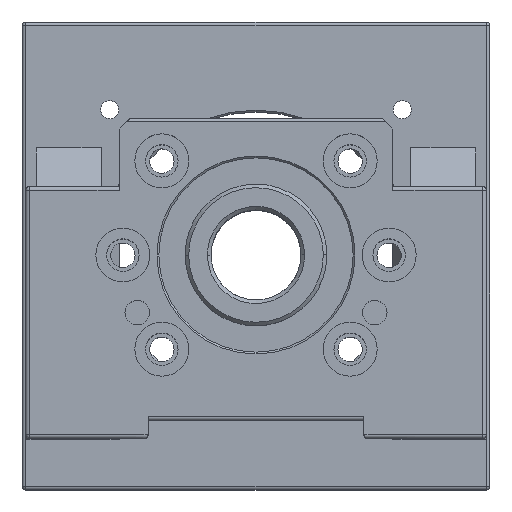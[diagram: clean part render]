
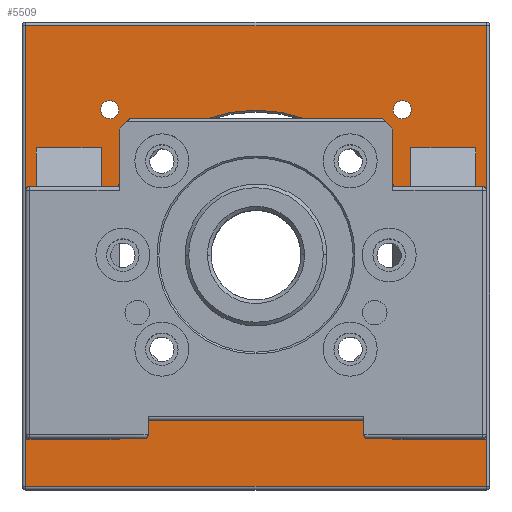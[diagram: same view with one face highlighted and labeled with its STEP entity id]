
A CAD part, top view. The second image highlights one B-rep face of the part: STEP entity #5509.
In plain terms, the highlighted planar face has unit normal (0, 0, 1).
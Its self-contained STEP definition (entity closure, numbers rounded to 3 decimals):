
#2209=DIRECTION('',(-1.,0.,0.));
#2210=VECTOR('',#2209,18.);
#2211=CARTESIAN_POINT('',(61.,30.,20.));
#2212=LINE('',#2211,#2210);
#2224=DIRECTION('',(0.,-1.,0.));
#2225=VECTOR('',#2224,69.782);
#2226=CARTESIAN_POINT('',(43.,30.,20.));
#2227=LINE('',#2226,#2225);
#2236=DIRECTION('',(0.,-1.,0.));
#2237=VECTOR('',#2236,8.465);
#2238=CARTESIAN_POINT('',(43.,-41.535,20.));
#2239=LINE('',#2238,#2237);
#2240=CARTESIAN_POINT('',(-40.659,-40.659,20.));
#2241=DIRECTION('',(0.,0.,-1.));
#2242=DIRECTION('',(-0.937,0.351,0.));
#2243=AXIS2_PLACEMENT_3D('',#2240,#2241,#2242);
#2245=DIRECTION('',(-1.,0.,0.));
#2246=VECTOR('',#2245,17.);
#2247=CARTESIAN_POINT('',(-44.,-51.,20.));
#2248=LINE('',#2247,#2246);
#2249=CARTESIAN_POINT('',(-44.,-50.,20.));
#2250=DIRECTION('',(0.,0.,-1.));
#2251=DIRECTION('',(1.,0.,0.));
#2252=AXIS2_PLACEMENT_3D('',#2249,#2250,#2251);
#2254=CARTESIAN_POINT('',(-40.659,-40.659,20.));
#2255=DIRECTION('',(0.,0.,-1.));
#2256=DIRECTION('',(1.,0.,0.));
#2257=AXIS2_PLACEMENT_3D('',#2254,#2255,#2256);
#2259=CARTESIAN_POINT('',(40.659,-40.659,20.));
#2260=DIRECTION('',(0.,0.,-1.));
#2261=DIRECTION('',(0.937,-0.351,0.));
#2262=AXIS2_PLACEMENT_3D('',#2259,#2260,#2261);
#2264=CARTESIAN_POINT('',(44.,-50.,20.));
#2265=DIRECTION('',(0.,0.,-1.));
#2266=DIRECTION('',(0.,-1.,0.));
#2267=AXIS2_PLACEMENT_3D('',#2264,#2265,#2266);
#2269=DIRECTION('',(-1.,0.,0.));
#2270=VECTOR('',#2269,16.);
#2271=CARTESIAN_POINT('',(60.,-51.,20.));
#2272=LINE('',#2271,#2270);
#2273=CARTESIAN_POINT('',(60.,-50.,20.));
#2274=DIRECTION('',(0.,0.,-1.));
#2275=DIRECTION('',(1.,0.,0.));
#2276=AXIS2_PLACEMENT_3D('',#2273,#2274,#2275);
#2278=CARTESIAN_POINT('',(40.659,-40.659,20.));
#2279=DIRECTION('',(0.,0.,-1.));
#2280=DIRECTION('',(-1.,0.,0.));
#2281=AXIS2_PLACEMENT_3D('',#2278,#2279,#2280);
#2283=CARTESIAN_POINT('',(40.659,40.659,20.));
#2284=DIRECTION('',(0.,0.,-1.));
#2285=DIRECTION('',(-1.,0.,0.));
#2286=AXIS2_PLACEMENT_3D('',#2283,#2284,#2285);
#2288=CARTESIAN_POINT('',(40.659,40.659,20.));
#2289=DIRECTION('',(0.,0.,-1.));
#2290=DIRECTION('',(1.,0.,0.));
#2291=AXIS2_PLACEMENT_3D('',#2288,#2289,#2290);
#2293=CARTESIAN_POINT('',(-40.659,40.659,20.));
#2294=DIRECTION('',(0.,0.,-1.));
#2295=DIRECTION('',(-1.,0.,0.));
#2296=AXIS2_PLACEMENT_3D('',#2293,#2294,#2295);
#2298=CARTESIAN_POINT('',(-40.659,40.659,20.));
#2299=DIRECTION('',(0.,0.,-1.));
#2300=DIRECTION('',(1.,0.,0.));
#2301=AXIS2_PLACEMENT_3D('',#2298,#2299,#2300);
#2303=CARTESIAN_POINT('',(0.,0.,20.));
#2304=DIRECTION('',(0.,0.,-1.));
#2305=DIRECTION('',(1.,0.,0.));
#2306=AXIS2_PLACEMENT_3D('',#2303,#2304,#2305);
#2308=CARTESIAN_POINT('',(0.,0.,20.));
#2309=DIRECTION('',(0.,0.,-1.));
#2310=DIRECTION('',(-1.,0.,0.));
#2311=AXIS2_PLACEMENT_3D('',#2308,#2309,#2310);
#2313=DIRECTION('',(0.,1.,0.));
#2314=VECTOR('',#2313,128.);
#2315=CARTESIAN_POINT('',(-64.,-64.,20.));
#2316=LINE('',#2315,#2314);
#2336=DIRECTION('',(1.,0.,0.));
#2337=VECTOR('',#2336,128.);
#2338=CARTESIAN_POINT('',(-64.,64.,20.));
#2339=LINE('',#2338,#2337);
#2514=DIRECTION('',(-1.,0.,0.));
#2515=VECTOR('',#2514,128.);
#2516=CARTESIAN_POINT('',(64.,-64.,20.));
#2517=LINE('',#2516,#2515);
#2560=DIRECTION('',(0.,-1.,0.));
#2561=VECTOR('',#2560,128.);
#2562=CARTESIAN_POINT('',(64.,64.,20.));
#2563=LINE('',#2562,#2561);
#2615=DIRECTION('',(0.,1.,0.));
#2616=VECTOR('',#2615,8.465);
#2617=CARTESIAN_POINT('',(-43.,-50.,20.));
#2618=LINE('',#2617,#2616);
#2627=DIRECTION('',(0.,1.,0.));
#2628=VECTOR('',#2627,69.782);
#2629=CARTESIAN_POINT('',(-43.,-39.782,20.));
#2630=LINE('',#2629,#2628);
#2661=DIRECTION('',(-1.,0.,0.));
#2662=VECTOR('',#2661,18.);
#2663=CARTESIAN_POINT('',(-43.,30.,20.));
#2664=LINE('',#2663,#2662);
#2680=DIRECTION('',(0.,-1.,0.));
#2681=VECTOR('',#2680,81.);
#2682=CARTESIAN_POINT('',(-61.,30.,20.));
#2683=LINE('',#2682,#2681);
#2818=CARTESIAN_POINT('',(43.,-39.782,20.));
#2820=CARTESIAN_POINT('',(43.,-41.535,20.));
#3253=DIRECTION('',(0.,1.,0.));
#3254=VECTOR('',#3253,80.);
#3255=CARTESIAN_POINT('',(61.,-50.,20.));
#3256=LINE('',#3255,#3254);
#3887=CARTESIAN_POINT('',(44.,-51.,20.));
#3888=CARTESIAN_POINT('',(43.,-50.,20.));
#3889=VERTEX_POINT('',#3887);
#3890=VERTEX_POINT('',#3888);
#3908=VERTEX_POINT('',#2818);
#3909=VERTEX_POINT('',#2820);
#3940=CARTESIAN_POINT('',(-43.,-50.,20.));
#3942=VERTEX_POINT('',#3940);
#3948=CARTESIAN_POINT('',(-64.,64.,20.));
#3949=CARTESIAN_POINT('',(64.,64.,20.));
#3950=VERTEX_POINT('',#3948);
#3951=VERTEX_POINT('',#3949);
#3988=CARTESIAN_POINT('',(-43.,-41.535,20.));
#3989=VERTEX_POINT('',#3988);
#4008=CARTESIAN_POINT('',(38.159,-40.659,20.));
#4009=VERTEX_POINT('',#4008);
#4010=CARTESIAN_POINT('',(40.5,0.,20.));
#4011=CARTESIAN_POINT('',(-40.5,0.,20.));
#4012=VERTEX_POINT('',#4010);
#4013=VERTEX_POINT('',#4011);
#4030=CARTESIAN_POINT('',(61.,30.,20.));
#4031=CARTESIAN_POINT('',(43.,30.,20.));
#4032=VERTEX_POINT('',#4030);
#4033=VERTEX_POINT('',#4031);
#4035=CARTESIAN_POINT('',(-61.,30.,20.));
#4037=VERTEX_POINT('',#4035);
#4064=CARTESIAN_POINT('',(-61.,-51.,20.));
#4066=VERTEX_POINT('',#4064);
#4171=CARTESIAN_POINT('',(64.,-64.,20.));
#4173=VERTEX_POINT('',#4171);
#4199=CARTESIAN_POINT('',(61.,-50.,20.));
#4200=CARTESIAN_POINT('',(60.,-51.,20.));
#4201=VERTEX_POINT('',#4199);
#4202=VERTEX_POINT('',#4200);
#4267=CARTESIAN_POINT('',(-44.,-51.,20.));
#4269=VERTEX_POINT('',#4267);
#4282=CARTESIAN_POINT('',(-38.159,40.659,20.));
#4283=CARTESIAN_POINT('',(-43.159,40.659,20.));
#4284=VERTEX_POINT('',#4282);
#4285=VERTEX_POINT('',#4283);
#4324=CARTESIAN_POINT('',(-64.,-64.,20.));
#4325=VERTEX_POINT('',#4324);
#4340=CARTESIAN_POINT('',(-43.,-39.782,20.));
#4341=CARTESIAN_POINT('',(-43.,30.,20.));
#4342=VERTEX_POINT('',#4340);
#4343=VERTEX_POINT('',#4341);
#4416=CARTESIAN_POINT('',(-38.159,-40.659,20.));
#4417=VERTEX_POINT('',#4416);
#4429=CARTESIAN_POINT('',(43.159,40.659,20.));
#4430=VERTEX_POINT('',#4429);
#4467=CARTESIAN_POINT('',(38.159,40.659,20.));
#4468=VERTEX_POINT('',#4467);
#5442=CARTESIAN_POINT('',(0.,0.,20.));
#5443=DIRECTION('',(0.,0.,1.));
#5444=DIRECTION('',(1.,0.,0.));
#5445=AXIS2_PLACEMENT_3D('',#5442,#5443,#5444);
#5446=PLANE('',#5445);
#5448=ORIENTED_EDGE('',*,*,#5447,.T.);
#5450=ORIENTED_EDGE('',*,*,#5449,.T.);
#5452=ORIENTED_EDGE('',*,*,#5451,.T.);
#5454=ORIENTED_EDGE('',*,*,#5453,.T.);
#5455=EDGE_LOOP('',(#5448,#5450,#5452,#5454));
#5456=FACE_OUTER_BOUND('',#5455,.F.);
#5458=ORIENTED_EDGE('',*,*,#5457,.F.);
#5460=ORIENTED_EDGE('',*,*,#5459,.T.);
#5462=ORIENTED_EDGE('',*,*,#5461,.T.);
#5464=ORIENTED_EDGE('',*,*,#5463,.T.);
#5465=ORIENTED_EDGE('',*,*,#4522,.F.);
#5467=ORIENTED_EDGE('',*,*,#5466,.F.);
#5469=ORIENTED_EDGE('',*,*,#5468,.T.);
#5471=ORIENTED_EDGE('',*,*,#5470,.F.);
#5472=EDGE_LOOP('',(#5458,#5460,#5462,#5464,#5465,#5467,#5469,#5471));
#5473=FACE_BOUND('',#5472,.F.);
#5475=ORIENTED_EDGE('',*,*,#5474,.F.);
#5476=ORIENTED_EDGE('',*,*,#5433,.T.);
#5478=ORIENTED_EDGE('',*,*,#5477,.F.);
#5480=ORIENTED_EDGE('',*,*,#5479,.F.);
#5482=ORIENTED_EDGE('',*,*,#5481,.F.);
#5484=ORIENTED_EDGE('',*,*,#5483,.T.);
#5485=ORIENTED_EDGE('',*,*,#5407,.T.);
#5486=ORIENTED_EDGE('',*,*,#5424,.T.);
#5488=ORIENTED_EDGE('',*,*,#5487,.F.);
#5489=EDGE_LOOP('',(#5475,#5476,#5478,#5480,#5482,#5484,#5485,#5486,#5488));
#5490=FACE_BOUND('',#5489,.F.);
#5492=ORIENTED_EDGE('',*,*,#5491,.F.);
#5494=ORIENTED_EDGE('',*,*,#5493,.F.);
#5495=EDGE_LOOP('',(#5492,#5494));
#5496=FACE_BOUND('',#5495,.F.);
#5498=ORIENTED_EDGE('',*,*,#5497,.F.);
#5500=ORIENTED_EDGE('',*,*,#5499,.F.);
#5501=EDGE_LOOP('',(#5498,#5500));
#5502=FACE_BOUND('',#5501,.F.);
#5504=ORIENTED_EDGE('',*,*,#5503,.F.);
#5506=ORIENTED_EDGE('',*,*,#5505,.F.);
#5507=EDGE_LOOP('',(#5504,#5506));
#5508=FACE_BOUND('',#5507,.F.);
#2244=CIRCLE('',#2243,2.5);
#2253=CIRCLE('',#2252,1.);
#2258=CIRCLE('',#2257,2.5);
#2263=CIRCLE('',#2262,2.5);
#2268=CIRCLE('',#2267,1.);
#2277=CIRCLE('',#2276,1.);
#2282=CIRCLE('',#2281,2.5);
#2287=CIRCLE('',#2286,2.5);
#2292=CIRCLE('',#2291,2.5);
#2297=CIRCLE('',#2296,2.5);
#2302=CIRCLE('',#2301,2.5);
#2307=CIRCLE('',#2306,40.5);
#2312=CIRCLE('',#2311,40.5);
#4522=EDGE_CURVE('',#4269,#4066,#2248,.T.);
#5407=EDGE_CURVE('',#4032,#4033,#2212,.T.);
#5424=EDGE_CURVE('',#4033,#3908,#2227,.T.);
#5433=EDGE_CURVE('',#3909,#3890,#2239,.T.);
#5447=EDGE_CURVE('',#4325,#3950,#2316,.T.);
#5449=EDGE_CURVE('',#3950,#3951,#2339,.T.);
#5451=EDGE_CURVE('',#3951,#4173,#2563,.T.);
#5453=EDGE_CURVE('',#4173,#4325,#2517,.T.);
#5457=EDGE_CURVE('',#4342,#4417,#2244,.T.);
#5459=EDGE_CURVE('',#4342,#4343,#2630,.T.);
#5461=EDGE_CURVE('',#4343,#4037,#2664,.T.);
#5463=EDGE_CURVE('',#4037,#4066,#2683,.T.);
#5466=EDGE_CURVE('',#3942,#4269,#2253,.T.);
#5468=EDGE_CURVE('',#3942,#3989,#2618,.T.);
#5470=EDGE_CURVE('',#4417,#3989,#2258,.T.);
#5474=EDGE_CURVE('',#3909,#4009,#2263,.T.);
#5477=EDGE_CURVE('',#3889,#3890,#2268,.T.);
#5479=EDGE_CURVE('',#4202,#3889,#2272,.T.);
#5481=EDGE_CURVE('',#4201,#4202,#2277,.T.);
#5483=EDGE_CURVE('',#4201,#4032,#3256,.T.);
#5487=EDGE_CURVE('',#4009,#3908,#2282,.T.);
#5491=EDGE_CURVE('',#4468,#4430,#2287,.T.);
#5493=EDGE_CURVE('',#4430,#4468,#2292,.T.);
#5497=EDGE_CURVE('',#4285,#4284,#2297,.T.);
#5499=EDGE_CURVE('',#4284,#4285,#2302,.T.);
#5503=EDGE_CURVE('',#4012,#4013,#2307,.T.);
#5505=EDGE_CURVE('',#4013,#4012,#2312,.T.);
#5509=ADVANCED_FACE('',(#5456,#5473,#5490,#5496,#5502,#5508),#5446,.T.);
